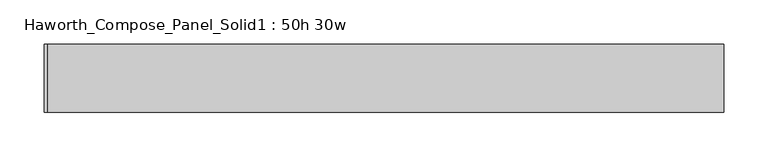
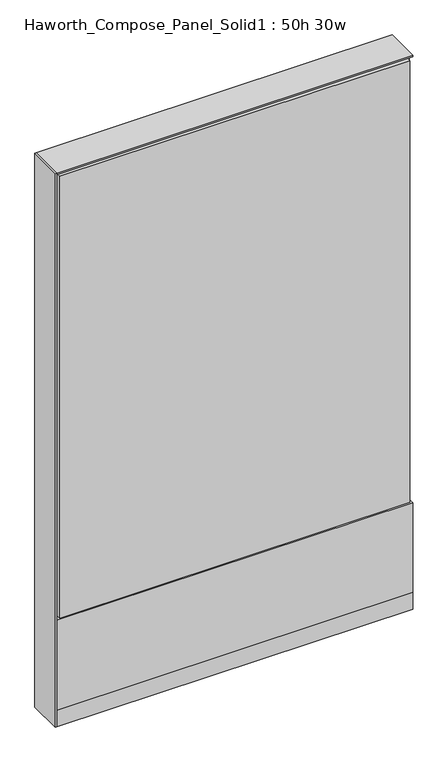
"""IFC4 building model written with IfcOpenShell, lengths in millimetres: furniture geometry, Haworth_Compose_Panel_Solid1 : 50h 30w."""

import ifcopenshell
import ifcopenshell.guid

model = None  # the IFC model being written
_history = None  # IfcOwnerHistory: only IFC2X3 demands one
_inside = {}  # id of a spatial element -> (the spatial element, [elements in it])
_under = {}  # id of a project, library or spatial element -> (it, [spatial elements below it])
_declared = {}  # id of a project -> (the project, [libraries it declares])
_typed = {}  # id of a type object -> (the type object, [elements of that type])
_made_of = {}  # id of a material, layer set ... -> (it, [elements and type objects made of it])


def new_model(schema):
    """Start an empty IFC model of exactly this schema.

    Asked for "IFC4X3", IfcOpenShell would pick the latest addendum, in which some entities
    have other attributes; the version numbers below select the first issue.
    IFC2X3 requires an IfcOwnerHistory on every rooted entity: one is made here for all.
    """
    global model, _history
    if schema == "IFC4X3":
        model = ifcopenshell.file(schema_version=(4, 3, 0, 0))
    else:
        model = ifcopenshell.file(schema=schema)
    _inside.clear()
    _under.clear()
    _declared.clear()
    _typed.clear()
    _made_of.clear()
    _history = None
    if model.schema == "IFC2X3":
        org = make("IfcOrganization", Name="unknown")
        user = make(
            "IfcPersonAndOrganization",
            ThePerson=make("IfcPerson", FamilyName="unknown"),
            TheOrganization=org,
        )
        app = make(
            "IfcApplication",
            ApplicationDeveloper=org,
            Version="unknown",
            ApplicationFullName="unknown",
            ApplicationIdentifier="unknown",
        )
        _history = make(
            "IfcOwnerHistory",
            OwningUser=user,
            OwningApplication=app,
            ChangeAction="ADDED",
            CreationDate=0,
        )
    return model


def make(cls, **values):
    """One entity of the class cls with the attributes given. An attribute that is None is left unset."""
    return model.create_entity(
        cls, **{name: value for name, value in values.items() if value is not None}
    )


def rooted(cls, **values):
    """An entity with a GlobalId (a new one), such as an element, a storey or a relation."""
    return make(cls, GlobalId=ifcopenshell.guid.new(), OwnerHistory=_history, **values)


def si_unit(unit_type, name, prefix=None):
    """IfcSIUnit, for example si_unit("LENGTHUNIT", "METRE", prefix="MILLI")."""
    return make("IfcSIUnit", UnitType=unit_type, Prefix=prefix, Name=name)


def assignment(units):
    """IfcUnitAssignment: the units of a project."""
    return None if units is None else make("IfcUnitAssignment", Units=units)


def point(xyz):
    """IfcCartesianPoint."""
    return None if xyz is None else make("IfcCartesianPoint", Coordinates=xyz)


def direction(xyz):
    """IfcDirection."""
    return None if xyz is None else make("IfcDirection", DirectionRatios=xyz)


def frame(location, z_axis=None, x_axis=None):
    """IfcAxis2Placement3D, a coordinate frame: its origin and axes. An axis left out is left unset."""
    return make(
        "IfcAxis2Placement3D",
        Location=point(location),
        Axis=direction(z_axis),
        RefDirection=direction(x_axis),
    )


def frame_2d(location, x_axis=None):
    """IfcAxis2Placement2D, a coordinate frame in the plane: its origin and x axis."""
    return make(
        "IfcAxis2Placement2D", Location=point(location), RefDirection=direction(x_axis)
    )


def origin():
    """The frame at (0, 0, 0) with its axes left unset."""
    return frame((0.0, 0.0, 0.0))


def origin_with_axes():
    """The frame at (0, 0, 0) with the z axis (0, 0, 1) and the x axis (1, 0, 0) written out."""
    return frame((0.0, 0.0, 0.0), z_axis=(0.0, 0.0, 1.0), x_axis=(1.0, 0.0, 0.0))


def place(relative_to, where):
    """IfcLocalPlacement: puts the frame where relative to a parent placement (None: the world)."""
    return make(
        "IfcLocalPlacement", PlacementRelTo=relative_to, RelativePlacement=where
    )


def context(
    kind, dimensions, precision=None, world=None, true_north=None, identifier=None
):
    """IfcGeometricRepresentationContext, for example the 3D "Model" context."""
    return make(
        "IfcGeometricRepresentationContext",
        ContextIdentifier=identifier,
        ContextType=kind,
        CoordinateSpaceDimension=dimensions,
        Precision=precision,
        WorldCoordinateSystem=world,
        TrueNorth=true_north,
    )


def project(units=None, contexts=None):
    """IfcProject with its units and contexts."""
    return rooted(
        "IfcProject",
        Name="project",
        RepresentationContexts=contexts,
        UnitsInContext=assignment(units),
    )


def spatial(cls, under=None, at=None, **own):
    """A site, building, storey or space (cls), placed at a placement, below another one or the project."""
    s = rooted(cls, ObjectPlacement=at, **own)
    if under is not None:
        _under.setdefault(under.id(), (under, []))[1].append(s)
    return s


def polyline(points):
    """IfcPolyline through the points."""
    return make("IfcPolyline", Points=[point(p) for p in points])


def circle_curve(where, radius):
    """IfcCircle in the frame where."""
    return make("IfcCircle", Position=where, Radius=radius)


def trimmed(basis, trim1, trim2, sense, master):
    """IfcTrimmedCurve: the piece of a basis curve between two trims."""
    return make(
        "IfcTrimmedCurve",
        BasisCurve=basis,
        Trim1=trim1,
        Trim2=trim2,
        SenseAgreement=sense,
        MasterRepresentation=master,
    )


def segment(curve, same_sense, transition):
    """IfcCompositeCurveSegment."""
    return make(
        "IfcCompositeCurveSegment",
        Transition=transition,
        SameSense=same_sense,
        ParentCurve=curve,
    )


def composite_curve(segments, self_intersect=None):
    """IfcCompositeCurve: segments joined end to end."""
    return make("IfcCompositeCurve", Segments=segments, SelfIntersect=self_intersect)


def outline(outer, holes=None, kind="AREA"):
    """IfcArbitraryClosedProfileDef: a profile drawn as a closed curve; with holes, ...WithVoids."""
    if holes is None:
        return make("IfcArbitraryClosedProfileDef", ProfileType=kind, OuterCurve=outer)
    return make(
        "IfcArbitraryProfileDefWithVoids",
        ProfileType=kind,
        OuterCurve=outer,
        InnerCurves=holes,
    )


def extrude(swept, where, along, depth):
    """IfcExtrudedAreaSolid: the profile swept, set in the frame where, extruded along a direction by depth."""
    return make(
        "IfcExtrudedAreaSolid",
        SweptArea=swept,
        Position=where,
        ExtrudedDirection=direction(along),
        Depth=depth,
    )


def shape(context_of_items, identifier, shape_type, items):
    """IfcShapeRepresentation: the items that make up one representation, for example the "Body"."""
    return make(
        "IfcShapeRepresentation",
        ContextOfItems=context_of_items,
        RepresentationIdentifier=identifier,
        RepresentationType=shape_type,
        Items=items,
    )


def source(mapping_origin, context_of_items, identifier, shape_type, items):
    """IfcRepresentationMap: a shape defined once, which mapped items show again and again."""
    return make(
        "IfcRepresentationMap",
        MappingOrigin=mapping_origin,
        MappedRepresentation=shape(context_of_items, identifier, shape_type, items),
    )


def transform(
    local_origin,
    x_axis=None,
    y_axis=None,
    z_axis=None,
    scale=None,
    scale2=None,
    scale3=None,
    uniform=True,
):
    """IfcCartesianTransformationOperator3D, or its non-uniform kind. x_axis, y_axis, z_axis: its Axis1, 2, 3."""
    if uniform:
        return make(
            "IfcCartesianTransformationOperator3D",
            Axis1=direction(x_axis),
            Axis2=direction(y_axis),
            LocalOrigin=point(local_origin),
            Scale=scale,
            Axis3=direction(z_axis),
        )
    return make(
        "IfcCartesianTransformationOperator3DnonUniform",
        Axis1=direction(x_axis),
        Axis2=direction(y_axis),
        LocalOrigin=point(local_origin),
        Scale=scale,
        Axis3=direction(z_axis),
        Scale2=scale2,
        Scale3=scale3,
    )


def mapped(mapping_source, mapping_target):
    """IfcMappedItem: shows the shape of a source again, moved by a transform."""
    return make(
        "IfcMappedItem", MappingSource=mapping_source, MappingTarget=mapping_target
    )


def made_of(thing, what):
    """Note that an element or type object is made of a material, layer set ...; save() writes the relation."""
    if what is not None:
        _made_of.setdefault(what.id(), (what, []))[1].append(thing)
    return thing


def element(
    cls,
    number,
    at=None,
    inside=None,
    cuts=None,
    type_object=None,
    material=None,
    context=None,
    identifier="Body",
    shape_type=None,
    held_by="IfcProductDefinitionShape",
    body=None,
    shapes=None,
    **own,
):
    """One element of the class cls, such as IfcWall. Its Tag is "e" and its number.

    at: its placement. inside: the storey or other place that contains it. cuts: it is an
    opening in that element (IfcRelVoidsElement). A single representation is given by context,
    identifier, shape_type and body (its items); several are given by shapes. held_by: the class
    of the entity that holds the representations. save() writes the other relations.
    """
    e = rooted(cls, Tag="e%d" % number, ObjectPlacement=at, **own)
    if body is not None:
        shapes = [shape(context, identifier, shape_type, body)]
    if shapes is not None:
        e.Representation = make(held_by, Representations=shapes)
    if inside is not None:
        _inside.setdefault(inside.id(), (inside, []))[1].append(e)
    if cuts is not None:
        rooted(
            "IfcRelVoidsElement", RelatingBuildingElement=cuts, RelatedOpeningElement=e
        )
    if type_object is not None:
        _typed.setdefault(type_object.id(), (type_object, []))[1].append(e)
    return made_of(e, material)


def aggregate(whole, parts):
    """IfcRelAggregates: a whole, such as a stair, and the parts it consists of."""
    return rooted("IfcRelAggregates", RelatingObject=whole, RelatedObjects=parts)


def save(model, path):
    """Write the relations noted so far, then the file.

    IfcRelAggregates (storeys below a building ...), IfcRelContainedInSpatialStructure (elements
    in a storey), IfcRelDefinesByType, IfcRelAssociatesMaterial and IfcRelDeclares: one each for
    every whole, place, type object, material and project.
    """
    for whole, parts in _under.values():
        aggregate(whole, parts)
    for where, things in _inside.values():
        rooted(
            "IfcRelContainedInSpatialStructure",
            RelatedElements=things,
            RelatingStructure=where,
        )
    for kind, things in _typed.values():
        rooted("IfcRelDefinesByType", RelatedObjects=things, RelatingType=kind)
    for what, things in _made_of.values():
        rooted("IfcRelAssociatesMaterial", RelatedObjects=things, RelatingMaterial=what)
    for by, libraries in _declared.values():
        rooted("IfcRelDeclares", RelatingContext=by, RelatedDefinitions=libraries)
    model.write(path)


def haworth_compose_panel_solid1_50h_30w_e31601ef(model_context):
    return source(origin(), model_context, "Body", "SweptSolid", [
        extrude(outline(composite_curve([segment(trimmed(circle_curve(frame_2d((-302.3597098, 0.0)), 12.7), [point((-315.0597098, 0.0))], [point((-289.6597098, 0.0))], False, "CARTESIAN"), True, "CONTINUOUS"), segment(trimmed(circle_curve(frame_2d((-302.3597098, 0.0)), 12.7), [point((-289.6597098, 0.0))], [point((-315.0597098, 0.0))], False, "CARTESIAN"), True, "CONTINUOUS")], self_intersect=False)), origin_with_axes(), (0.0, 0.0, 1.0), 12.7),
        extrude(outline(composite_curve([segment(trimmed(circle_curve(frame_2d((307.2402902, 0.0)), 12.7), [point((294.5402902, 0.0))], [point((319.9402902, 0.0))], False, "CARTESIAN"), True, "CONTINUOUS"), segment(trimmed(circle_curve(frame_2d((307.2402902, 0.0)), 12.7), [point((319.9402902, 0.0))], [point((294.5402902, 0.0))], False, "CARTESIAN"), True, "CONTINUOUS")], self_intersect=False)), origin_with_axes(), (0.0, 0.0, 1.0), 12.7),
        extrude(outline(polyline([(-381.7347098, 38.1), (-378.5597098, 38.1), (-378.5597098, -38.1), (-381.7347098, -38.1), (-381.7347098, 38.1)])), frame((0.0, 0.0, 12.7), z_axis=(0.0, 0.0, 1.0), x_axis=(1.0, 0.0, 0.0)), (0.0, 0.0, 1.0), 1254.125),
        extrude(outline(polyline([(377.0902902, 38.1), (377.0902902, 25.4), (-372.2097098, 25.4), (-372.2097098, 38.1), (377.0902902, 38.1)])), frame((0.0, 0.0, 257.175), z_axis=(0.0, 0.0, 1.0), x_axis=(1.0, 0.0, 0.0)), (0.0, 0.0, 1.0), 1000.125),
        extrude(outline(polyline([(383.4402902, 38.1), (383.4402902, 25.4), (-378.5597098, 25.4), (-378.5597098, 38.1), (383.4402902, 38.1)])), frame((0.0, 0.0, 50.8), z_axis=(0.0, 0.0, 1.0), x_axis=(1.0, 0.0, 0.0)), (0.0, 0.0, 1.0), 203.2),
        extrude(outline(polyline([(383.4402902, -38.1), (-378.5597098, -38.1), (-378.5597098, -25.4), (383.4402902, -25.4), (383.4402902, -38.1)])), frame((0.0, 0.0, 50.8), z_axis=(0.0, 0.0, 1.0), x_axis=(1.0, 0.0, 0.0)), (0.0, 0.0, 1.0), 203.2),
        extrude(outline(polyline([(377.0902902, -38.1), (-372.2097098, -38.1), (-372.2097098, -25.4), (377.0902902, -25.4), (377.0902902, -38.1)])), frame((0.0, 0.0, 257.175), z_axis=(0.0, 0.0, 1.0), x_axis=(1.0, 0.0, 0.0)), (0.0, 0.0, 1.0), 1000.125),
        extrude(outline(polyline([(383.4402902, 25.4), (383.4402902, -25.4), (-378.5597098, -25.4), (-378.5597098, 25.4), (383.4402902, 25.4)])), frame((0.0, 0.0, 12.7), z_axis=(0.0, 0.0, 1.0), x_axis=(1.0, 0.0, 0.0)), (0.0, 0.0, 1.0), 1250.95),
        extrude(outline(polyline([(-378.5597098, -38.1), (-378.5597098, 38.1), (383.4402902, 38.1), (383.4402902, -38.1), (-378.5597098, -38.1)])), frame((0.0, 0.0, 12.7), z_axis=(0.0, 0.0, 1.0), x_axis=(1.0, 0.0, 0.0)), (0.0, 0.0, 1.0), 38.1),
        extrude(outline(polyline([(-378.5597098, -38.1), (-378.5597098, 38.1), (383.4402902, 38.1), (383.4402902, -38.1), (-378.5597098, -38.1)])), frame((0.0, 0.0, 1263.65), z_axis=(0.0, 0.0, 1.0), x_axis=(1.0, 0.0, 0.0)), (0.0, 0.0, 1.0), 3.175),
    ])


if __name__ == "__main__":
    model = new_model("IFC4")
    model_context = context("Model", 3, world=origin())
    ifc_project = project(units=[si_unit("LENGTHUNIT", "METRE", prefix="MILLI")], contexts=[model_context])
    site = spatial("IfcSite", under=ifc_project)
    building = spatial("IfcBuilding", under=site)
    placement = place(None, origin())
    haworth_compose_panel_solid1_50h_30w_shape = haworth_compose_panel_solid1_50h_30w_e31601ef(model_context)
    element("IfcFurniture", 1, ObjectType="Haworth_Compose_Panel_Solid1 : 50h 30w", at=placement, inside=building, context=model_context, shape_type="MappedRepresentation", body=[
        mapped(haworth_compose_panel_solid1_50h_30w_shape, transform((0.0, 0.0, 0.0), x_axis=(1.0, 0.0, 0.0), y_axis=(0.0, 1.0, 0.0), z_axis=(0.0, 0.0, 1.0))),
    ])
    save(model, "model.ifc")
